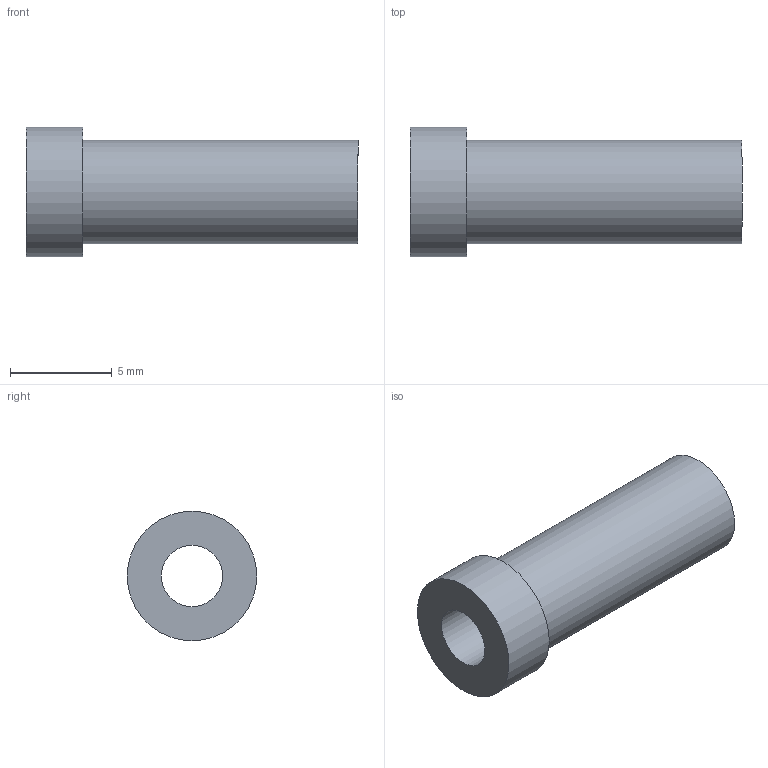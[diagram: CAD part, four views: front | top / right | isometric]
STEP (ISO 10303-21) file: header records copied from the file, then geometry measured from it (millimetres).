
FILE_DESCRIPTION(/* description */ (''),/* implementation_level */ '2;1');
FILE_NAME(/* name */ 'CMS.BTL.00000076.stp',/* time_stamp */ '2023-10-24T15:50:50+02:00',/* author */ (''),/* organization */ (''),/* preprocessor_version */ 'ST-DEVELOPER v19.4',/* originating_system */ 'SIEMENS PLM Software NX2306.5001',/* authorisation */ '');
FILE_SCHEMA (('AP203_CONFIGURATION_CONTROLLED_3D_DESIGN_OF_MECHANICAL_PARTS_AND_ASSEMBLIES_MIM_LF { 1 0 10303 403 2 1 2}'));
Length unit declared in the file: millimetre
Products named in the file (1): CMS.BTL.00000076_objects
Bounding box: 16.28 x 6.35 x 6.35 mm (x, y, z)
Volume: 235.7 mm3; surface area: 479.9 mm2
Topology: 1 solids, 1 shells, 8 faces, 12 edges, 8 vertices
Faces by surface type: cylinder 4, plane 4
Full cylindrical faces by diameter (mm): 3 x1, 4 x1, 5.08 x1, 6.35 x1
Entity records: 254 total; most frequent: DIRECTION 34, CARTESIAN_POINT 25, AXIS2_PLACEMENT_3D 17, FACE_BOUND 16, EDGE_LOOP 16, ORIENTED_EDGE 16, ADVANCED_FACE 8, VERTEX_POINT 8
